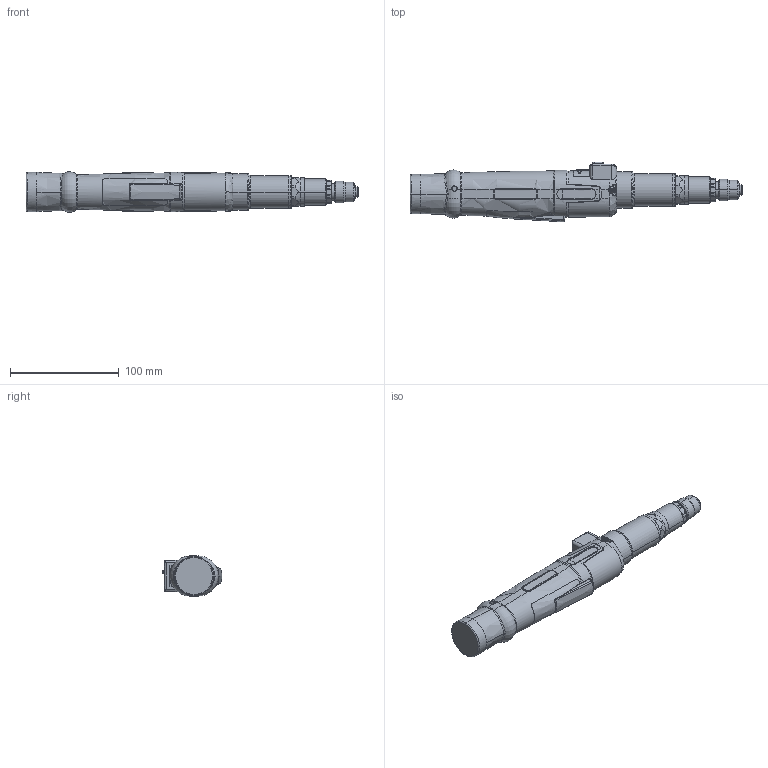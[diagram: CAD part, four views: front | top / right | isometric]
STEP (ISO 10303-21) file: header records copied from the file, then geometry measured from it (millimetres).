
FILE_DESCRIPTION (( 'STEP AP203' ), '1' );
FILE_NAME ('70141251_HSXK1006ZH14.STEP', '2026-03-13T06:59:16', ( '' ), ( '' ), 'SwSTEP 2.0', 'SolidWorks 2020', '' );
FILE_SCHEMA (( 'CONFIG_CONTROL_DESIGN' ));
Length unit declared in the file: millimetre
Products named in the file (4): 70141230; 70141251_HSXK1006ZH14; 70141211; 70141200
Assembly tree (3 placements, depth 2):
  70141251_HSXK1006ZH14
    70141200
    70141211
    70141230
Bounding box: 305.2 x 54.93 x 37 mm (x, y, z)
Volume: 290195.4 mm3; surface area: 49937.9 mm2
Topology: 4 solids, 5 shells, 1109 faces, 2856 edges, 1768 vertices
Faces by surface type: cylinder 346, bspline 306, plane 253, torus 94, cone 85, sphere 25
Entity records: 52744 total; most frequent: CARTESIAN_POINT 27963, ORIENTED_EDGE 5644, DIRECTION 4397, EDGE_CURVE 2822, AXIS2_PLACEMENT_3D 1781, VERTEX_POINT 1764, EDGE_LOOP 1156, ADVANCED_FACE 1109
